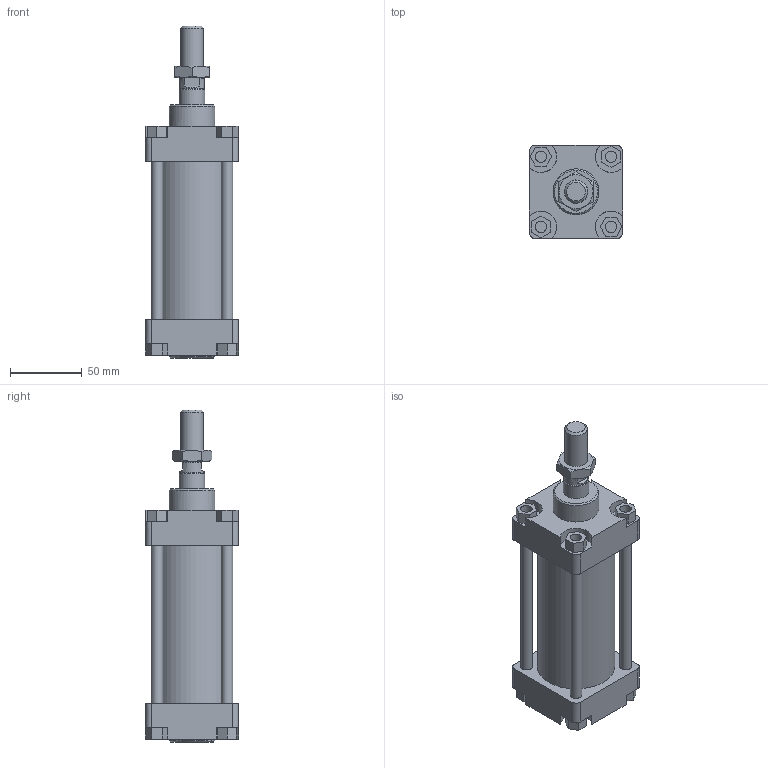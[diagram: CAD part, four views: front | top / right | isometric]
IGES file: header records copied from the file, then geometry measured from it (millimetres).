
Global section: file name: 1303_050_0050_01A; native system: Autodesk Inventor 2014; preprocessor: unknown; author: A. Manieri; date: 20161123.150158; units: millimetre
Bounding box: 65 x 65 x 232 mm (x, y, z)
Volume: 396066.5 mm3; surface area: 113865.7 mm2
Topology: 9 solids, 9 shells, 163 faces, 401 edges, 268 vertices
Faces by surface type: bspline 163
